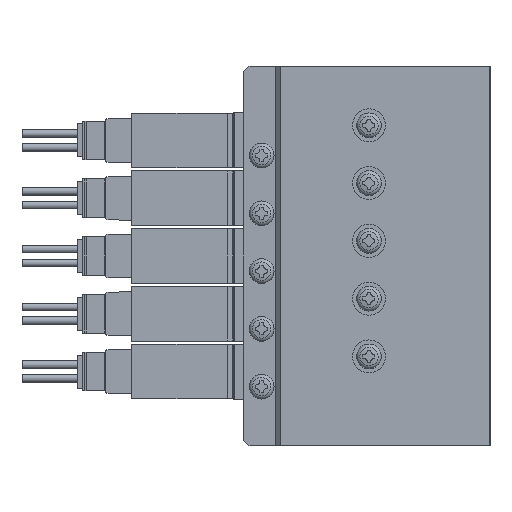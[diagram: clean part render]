
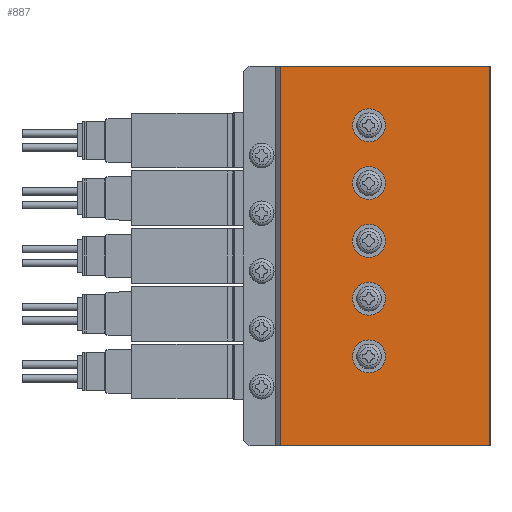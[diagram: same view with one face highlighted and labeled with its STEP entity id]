
A CAD part, left-side view. The second image highlights one B-rep face of the part: STEP entity #887.
In plain terms, the highlighted planar face has unit normal (-1, 0, 0) as drawn and (1, 0, 0) by its records, which use the part's own axes.
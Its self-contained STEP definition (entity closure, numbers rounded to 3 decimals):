
#887=ADVANCED_FACE('',(#1989,#1990,#1991,#1992,#1993,#1994),#1995,.F.);
#1989=FACE_OUTER_BOUND('',#3350,.T.);
#1990=FACE_BOUND('',#3351,.T.);
#1991=FACE_BOUND('',#3352,.T.);
#1992=FACE_BOUND('',#3353,.T.);
#1993=FACE_BOUND('',#3354,.T.);
#1994=FACE_BOUND('',#3355,.T.);
#1995=PLANE('',#3356);
#3350=EDGE_LOOP('',(#7084,#7085,#7086,#7087));
#3351=EDGE_LOOP('',(#7088));
#3352=EDGE_LOOP('',(#7089));
#3353=EDGE_LOOP('',(#7090));
#3354=EDGE_LOOP('',(#7091));
#3355=EDGE_LOOP('',(#7092));
#3356=AXIS2_PLACEMENT_3D('',#7093,#7094,#7095);
#7084=ORIENTED_EDGE('',*,*,#9364,.T.);
#7085=ORIENTED_EDGE('',*,*,#9365,.F.);
#7086=ORIENTED_EDGE('',*,*,#9191,.F.);
#7087=ORIENTED_EDGE('',*,*,#9366,.T.);
#7088=ORIENTED_EDGE('',*,*,#9161,.F.);
#7089=ORIENTED_EDGE('',*,*,#9367,.F.);
#7090=ORIENTED_EDGE('',*,*,#9368,.F.);
#7091=ORIENTED_EDGE('',*,*,#9369,.F.);
#7092=ORIENTED_EDGE('',*,*,#9370,.F.);
#7093=CARTESIAN_POINT('',(19.0,0.0,34.5));
#7094=DIRECTION('',(-1.0,0.0,0.0));
#7095=DIRECTION('',(0.0,0.0,1.0));
#9161=EDGE_CURVE('',#11208,#11208,#11209,.T.);
#9191=EDGE_CURVE('',#11261,#11263,#11264,.T.);
#9364=EDGE_CURVE('',#11567,#11568,#11569,.T.);
#9365=EDGE_CURVE('',#11263,#11568,#11570,.T.);
#9366=EDGE_CURVE('',#11261,#11567,#11571,.T.);
#9367=EDGE_CURVE('',#11572,#11572,#11573,.T.);
#9368=EDGE_CURVE('',#11574,#11574,#11575,.T.);
#9369=EDGE_CURVE('',#11576,#11576,#11577,.T.);
#9370=EDGE_CURVE('',#11578,#11578,#11579,.T.);
#11208=VERTEX_POINT('',#15046);
#11209=CIRCLE('',#15047,3.0);
#11261=VERTEX_POINT('',#15182);
#11263=VERTEX_POINT('',#15185);
#11264=LINE('',#15186,#15187);
#11567=VERTEX_POINT('',#15782);
#11568=VERTEX_POINT('',#15783);
#11569=LINE('',#15784,#15785);
#11570=LINE('',#15786,#15787);
#11571=LINE('',#15788,#15789);
#11572=VERTEX_POINT('',#15790);
#11573=CIRCLE('',#15791,3.0);
#11574=VERTEX_POINT('',#15792);
#11575=CIRCLE('',#15793,3.0);
#11576=VERTEX_POINT('',#15794);
#11577=CIRCLE('',#15795,3.0);
#11578=VERTEX_POINT('',#15796);
#11579=CIRCLE('',#15797,3.0);
#15046=CARTESIAN_POINT('',(19.0,22.0,15.25));
#15047=AXIS2_PLACEMENT_3D('',#17599,#17600,#17601);
#15182=CARTESIAN_POINT('',(19.0,0.0,34.5));
#15185=CARTESIAN_POINT('',(19.0,38.0,34.5));
#15186=CARTESIAN_POINT('',(19.0,0.0,34.5));
#15187=VECTOR('',#17644,1.0);
#15782=CARTESIAN_POINT('',(19.0,0.0,-34.5));
#15783=CARTESIAN_POINT('',(19.0,38.0,-34.5));
#15784=CARTESIAN_POINT('',(19.0,0.0,-34.5));
#15785=VECTOR('',#17955,1.0);
#15786=CARTESIAN_POINT('',(19.0,38.0,34.5));
#15787=VECTOR('',#17956,1.0);
#15788=CARTESIAN_POINT('',(19.0,0.0,34.5));
#15789=VECTOR('',#17957,1.0);
#15790=CARTESIAN_POINT('',(19.0,22.0,-26.75));
#15791=AXIS2_PLACEMENT_3D('',#17958,#17959,#17960);
#15792=CARTESIAN_POINT('',(19.0,22.0,-16.25));
#15793=AXIS2_PLACEMENT_3D('',#17961,#17962,#17963);
#15794=CARTESIAN_POINT('',(19.0,22.0,-5.75));
#15795=AXIS2_PLACEMENT_3D('',#17964,#17965,#17966);
#15796=CARTESIAN_POINT('',(19.0,22.0,4.75));
#15797=AXIS2_PLACEMENT_3D('',#17967,#17968,#17969);
#17599=CARTESIAN_POINT('',(19.0,22.0,18.25));
#17600=DIRECTION('',(1.0,0.0,0.0));
#17601=DIRECTION('',(0.0,0.0,-1.0));
#17644=DIRECTION('',(0.0,1.0,0.0));
#17955=DIRECTION('',(0.0,1.0,0.0));
#17956=DIRECTION('',(0.0,0.0,-1.0));
#17957=DIRECTION('',(0.0,0.0,-1.0));
#17958=CARTESIAN_POINT('',(19.0,22.0,-23.75));
#17959=DIRECTION('',(1.0,0.0,0.0));
#17960=DIRECTION('',(0.0,0.0,-1.0));
#17961=CARTESIAN_POINT('',(19.0,22.0,-13.25));
#17962=DIRECTION('',(1.0,0.0,0.0));
#17963=DIRECTION('',(0.0,0.0,-1.0));
#17964=CARTESIAN_POINT('',(19.0,22.0,-2.75));
#17965=DIRECTION('',(1.0,0.0,0.0));
#17966=DIRECTION('',(0.0,0.0,-1.0));
#17967=CARTESIAN_POINT('',(19.0,22.0,7.75));
#17968=DIRECTION('',(1.0,0.0,0.0));
#17969=DIRECTION('',(0.0,0.0,-1.0));
